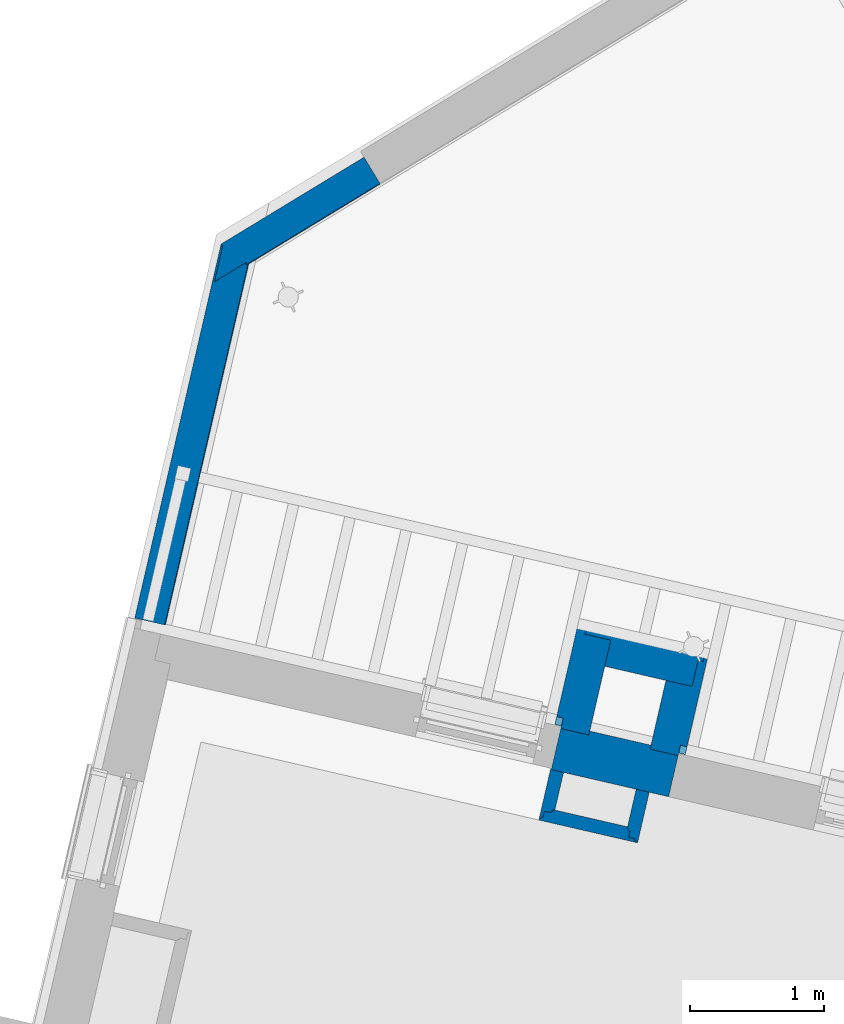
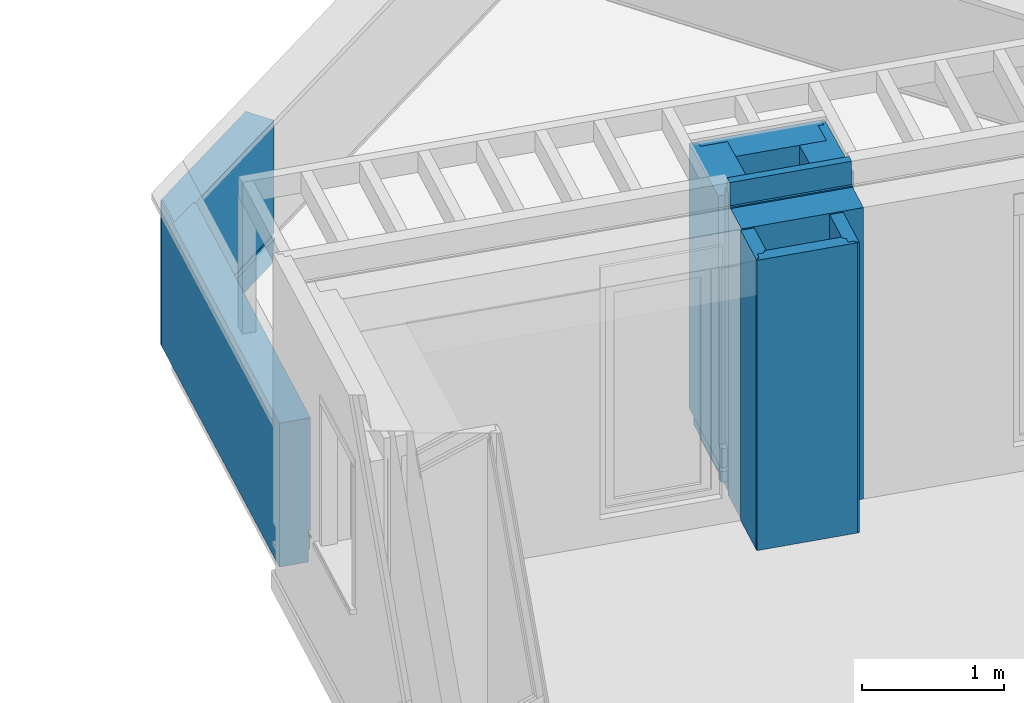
# One storey, part 34 of 62: 9 walls.
"""IFC2X3 building model written with IfcOpenShell, lengths in metres."""

from ifc_helpers import new_model, entity, si_unit, converted_unit, derived_unit, money_unit, direction, frame, origin_with_axes, place, context, subcontext, project, spatial, faceted_brep, material, material_list, type_object, element, save


model = new_model("IFC2X3")

# Units and contexts
model_context = context("Model", 3, precision=1e-05, world=origin_with_axes(), true_north=direction((0.0, 1.0)))
body_context = subcontext(model_context, "Body", "Model", "MODEL_VIEW")
ifc_project = project(units=[si_unit("LENGTHUNIT", "METRE"), si_unit("AREAUNIT", "SQUARE_METRE"), si_unit("VOLUMEUNIT", "CUBIC_METRE"), converted_unit("PLANEANGLEUNIT", "DEGREE", entity("IfcPlaneAngleMeasure", 0.0174532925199), si_unit("PLANEANGLEUNIT", "RADIAN"), dimensions=[0, 0, 0, 0, 0, 0, 0]), si_unit("SOLIDANGLEUNIT", "STERADIAN"), money_unit("EUR"), converted_unit("TIMEUNIT", "Year", entity("IfcTimeMeasure", 31556926.0), si_unit("TIMEUNIT", "SECOND"), dimensions=[0, 0, 1, 0, 0, 0, 0]), si_unit("MASSUNIT", "GRAM", prefix="KILO"), si_unit("THERMODYNAMICTEMPERATUREUNIT", "DEGREE_CELSIUS"), si_unit("LUMINOUSINTENSITYUNIT", "LUMEN"), si_unit("ENERGYUNIT", "JOULE", prefix="MEGA"), derived_unit("THERMALCONDUCTANCEUNIT", [(si_unit("POWERUNIT", "WATT"), 1), (si_unit("LENGTHUNIT", "METRE"), -1), (si_unit("THERMODYNAMICTEMPERATUREUNIT", "KELVIN"), -1)]), derived_unit("SPECIFICHEATCAPACITYUNIT", [(si_unit("ENERGYUNIT", "JOULE"), 1), (si_unit("MASSUNIT", "GRAM", prefix="KILO"), -1), (si_unit("THERMODYNAMICTEMPERATUREUNIT", "KELVIN"), -1)]), derived_unit("MASSDENSITYUNIT", [(si_unit("MASSUNIT", "GRAM", prefix="KILO"), 1), (si_unit("VOLUMEUNIT", "CUBIC_METRE"), -1)])], contexts=[model_context])

# Site, building, storey
site_placement = place(None, origin_with_axes())
site = spatial("IfcSite", under=ifc_project, at=site_placement, Name="Site", CompositionType="ELEMENT")
building_placement = place(site_placement, origin_with_axes())
building = spatial("IfcBuilding", under=site, at=building_placement, Name="Bâtiment", CompositionType="ELEMENT")
storey_placement = place(building_placement, frame((0.0, 0.0, 8.16), z_axis=(0.0, 0.0, 1.0), x_axis=(1.0, 0.0, 0.0)))
storey = spatial("IfcBuildingStorey", under=building, at=storey_placement, Name="R+3", CompositionType="ELEMENT", Elevation=8.16)

# Walls
ifc_material_1 = material(Name="Finition int - Plaque de plâtre")
ifc_material_2 = material(Name="Isolation - Polystyrène extrudé")
ifc_material_3 = material(Name="Bloc ELITHERM")
ifc_material_4 = material(Name="Mortier")
ifc_material_5 = material(Name="Béton cellulaire")
ifc_material_6 = material(Name="Finition ext - Crépis")
ifc_material_list_1 = material_list([ifc_material_1, ifc_material_2, ifc_material_3, ifc_material_4, ifc_material_5, ifc_material_6])
wall_type_1 = type_object("IfcWallType", Name="Mur ALKERN + planelle 21 345 x 2720", PredefinedType="USERDEFINED")
wall_1_placement = place(storey_placement, frame((-3.42713217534, 13.8646562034, 0.0), z_axis=(0.0, 0.0, 1.0), x_axis=(-0.974387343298, 0.224876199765, 0.0)))
element("IfcWall", 1, at=wall_1_placement, inside=storey, type_object=wall_type_1, material=ifc_material_list_1, Name="Mue bloc ALKERN isolé", ObjectType="SOLIDWALL", context=body_context, shape_type="Brep", body=[
    faceted_brep([(0.0, 0.35999998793, 2.51), (0.899323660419, 0.35999998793, 2.51), (0.899323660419, 0.35999998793, 0.0), (0.0, 0.35999998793, 0.0), (0.0, 0.350000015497, 2.51), (0.899323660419, 0.350000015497, 2.51), (0.899323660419, 0.350000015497, 0.0), (0.0, 0.350000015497, 0.0)], [[[0, 1, 2, 3]], [[4, 5, 1, 0]], [[2, 1, 5, 6]], [[3, 2, 6, 7]], [[4, 0, 3, 7]], [[7, 6, 5, 4]]]),
    faceted_brep([(0.0, 0.350000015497, 2.51), (0.899323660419, 0.350000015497, 2.51), (0.899323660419, 0.350000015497, 0.0), (0.0, 0.350000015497, 0.0), (0.0, 0.230000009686, 2.51), (0.899323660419, 0.230000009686, 2.51), (0.899323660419, 0.230000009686, 0.0), (0.0, 0.230000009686, 0.0)], [[[0, 1, 2, 3]], [[4, 5, 1, 0]], [[2, 1, 5, 6]], [[3, 2, 6, 7]], [[4, 0, 3, 7]], [[7, 6, 5, 4]]]),
    faceted_brep([(0.0, 0.03, 2.50999999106), (0.899323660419, 0.03, 2.50999999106), (0.899323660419, 0.0979999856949, 2.50999999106), (0.0, 0.0979999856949, 2.50999999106), (0.0, 0.03, 0.0), (0.899323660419, 0.03, 0.0), (0.899323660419, 0.229999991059, 0.0), (0.899323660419, 0.229999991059, 2.50999999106), (0.0, 0.229999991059, 2.50999999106), (0.0, 0.229999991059, 0.0)], [[[0, 1, 2, 3]], [[4, 5, 1, 0]], [[2, 1, 5, 6, 7]], [[3, 2, 7, 8]], [[4, 0, 3, 8, 9]], [[9, 6, 5, 4]], [[8, 7, 6, 9]]]),
    faceted_brep([(0.899323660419, 0.098, 2.52), (0.899323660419, 0.098, 2.51), (0.0, 0.098, 2.51), (0.0, 0.098, 2.52), (0.899323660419, 0.03, 2.52), (0.899323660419, 0.03, 2.51), (0.0, 0.03, 2.51), (0.0, 0.03, 2.52)], [[[0, 1, 2, 3]], [[0, 4, 5, 1]], [[1, 5, 6, 2]], [[3, 2, 6, 7]], [[4, 0, 3, 7]], [[5, 4, 7, 6]]]),
    faceted_brep([(0.899323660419, 0.0779999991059, 2.51999999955), (0.899323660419, 0.03, 2.51999999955), (0.0, 0.03, 2.51999999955), (0.0, 0.0779999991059, 2.51999999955), (0.899323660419, 0.0779999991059, 2.72), (0.899323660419, 0.03, 2.72), (0.0, 0.03, 2.72), (0.0, 0.0779999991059, 2.72)], [[[0, 1, 2, 3]], [[0, 4, 5, 1]], [[1, 5, 6, 2]], [[3, 2, 6, 7]], [[4, 0, 3, 7]], [[5, 4, 7, 6]]]),
    faceted_brep([(0.884323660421, 0.015, 0.1), (0.899323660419, 0.015, 0.1), (0.899323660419, 0.015, 2.72), (0.0, 0.015, 2.72), (0.0, 0.015, 0.1), (0.0150000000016, 0.015, 0.1), (0.0150000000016, 0.015, 0.0), (0.884323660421, 0.015, 0.0), (0.88432366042, 0.0300000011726, 0.1), (0.899323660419, 0.0300000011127, 0.1), (0.899323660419, 0.0299999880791, 2.72), (0.0, 0.0299999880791, 2.72), (0.0, 0.0300000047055, 0.1), (0.0150000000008, 0.0300000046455, 0.1), (0.0150000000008, 0.0300000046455, 0.0), (0.88432366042, 0.0300000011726, 0.0)], [[[0, 1, 2, 3, 4, 5, 6, 7]], [[1, 0, 8, 9]], [[1, 9, 10, 2]], [[3, 2, 10, 11]], [[12, 4, 3, 11]], [[5, 4, 12, 13]], [[6, 5, 13, 14]], [[15, 7, 6, 14]], [[0, 7, 15, 8]], [[8, 15, 14, 13, 12, 11, 10, 9]]]),
])
ifc_material_7 = material(Name="Isolation - Laine de roche")
ifc_material_list_2 = material_list([ifc_material_1, ifc_material_1, ifc_material_7, ifc_material_1, ifc_material_1])
wall_type_2 = type_object("IfcWallType", Name="3 - Cloison Gaine Technique 98mm 100", PredefinedType="USERDEFINED")
wall_2_placement = place(storey_placement, frame((-3.74052329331, 13.1693209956, 0.0), z_axis=(0.0, 0.0, 1.0), x_axis=(-0.974387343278, 0.224876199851, 0.0)))
element("IfcWall", 2, at=wall_2_placement, inside=storey, type_object=wall_type_2, material=ifc_material_list_2, Name="Cloison 98 isolée", ObjectType="PARTITIONING", context=body_context, shape_type="Brep", body=[
    faceted_brep([(0.756554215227, -0.013, 2.5), (0.756554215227, 0.0, 2.5), (0.013, 0.0, 2.5), (0.013, -0.013, 2.5), (0.756554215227, -0.013, 0.0), (0.756554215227, 0.0, 0.0), (0.013, 0.0, 0.0), (0.013, -0.013, 0.0)], [[[0, 1, 2, 3]], [[1, 0, 4, 5]], [[1, 5, 6, 2]], [[7, 3, 2, 6]], [[4, 0, 3, 7]], [[5, 4, 7, 6]]]),
    faceted_brep([(0.743554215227, -0.026, 2.5), (0.743554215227, -0.013, 2.5), (0.026, -0.013, 2.5), (0.026, -0.026, 2.5), (0.743554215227, -0.026, 0.0), (0.743554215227, -0.013, 0.0), (0.026, -0.013, 0.0), (0.026, -0.026, 0.0)], [[[0, 1, 2, 3]], [[1, 0, 4, 5]], [[1, 5, 6, 2]], [[7, 3, 2, 6]], [[4, 0, 3, 7]], [[5, 4, 7, 6]]]),
    faceted_brep([(0.730554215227, -0.074, 2.5), (0.730554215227, -0.026, 2.5), (0.074, -0.026, 2.5), (0.074, -0.074, 2.5), (0.730554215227, -0.074, 0.0), (0.730554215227, -0.026, 0.0), (0.074, -0.026, 0.0), (0.074, -0.074, 0.0)], [[[0, 1, 2, 3]], [[1, 0, 4, 5]], [[1, 5, 6, 2]], [[7, 3, 2, 6]], [[4, 0, 3, 7]], [[5, 4, 7, 6]]]),
    faceted_brep([(0.682554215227, -0.087, 2.5), (0.682554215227, -0.074, 2.5), (0.087, -0.074, 2.5), (0.087, -0.087, 2.5), (0.682554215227, -0.087, 0.0), (0.682554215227, -0.074, 0.0), (0.087, -0.074, 0.0), (0.087, -0.087, 0.0)], [[[0, 1, 2, 3]], [[1, 0, 4, 5]], [[1, 5, 6, 2]], [[7, 3, 2, 6]], [[4, 0, 3, 7]], [[5, 4, 7, 6]]]),
    faceted_brep([(0.669554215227, -0.1, 2.5), (0.669554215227, -0.087, 2.5), (0.1, -0.087, 2.5), (0.1, -0.1, 2.5), (0.669554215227, -0.1, 0.0), (0.669554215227, -0.087, 0.0), (0.1, -0.087, 0.0), (0.1, -0.1, 0.0)], [[[0, 1, 2, 3]], [[1, 0, 4, 5]], [[1, 5, 6, 2]], [[7, 3, 2, 6]], [[4, 0, 3, 7]], [[5, 4, 7, 6]]]),
])
wall_3_placement = place(storey_placement, frame((-4.47770014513, 13.3394520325, 0.0), z_axis=(0.0, 0.0, 1.0), x_axis=(0.224876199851, 0.974387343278, 0.0)))
element("IfcWall", 3, at=wall_3_placement, inside=storey, type_object=wall_type_2, material=ifc_material_list_2, Name="Cloison 98 isolée", ObjectType="PARTITIONING", context=body_context, shape_type="Brep", body=[
    faceted_brep([(0.013, -0.013, 2.5), (0.387999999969, -0.013, 2.5), (0.387999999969, 0.0, 2.5), (0.013, 0.0, 2.5), (0.013, -0.013, 0.0), (0.387999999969, -0.013, 0.0), (0.387999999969, 0.0, 0.0), (0.013, 0.0, 0.0)], [[[0, 1, 2, 3]], [[4, 5, 1, 0]], [[2, 1, 5, 6]], [[3, 2, 6, 7]], [[4, 0, 3, 7]], [[7, 6, 5, 4]]]),
    faceted_brep([(0.026, -0.026, 2.5), (0.387999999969, -0.026, 2.5), (0.387999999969, -0.013, 2.5), (0.026, -0.013, 2.5), (0.026, -0.026, 0.0), (0.387999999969, -0.026, 0.0), (0.387999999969, -0.013, 0.0), (0.026, -0.013, 0.0)], [[[0, 1, 2, 3]], [[4, 5, 1, 0]], [[2, 1, 5, 6]], [[3, 2, 6, 7]], [[4, 0, 3, 7]], [[7, 6, 5, 4]]]),
    faceted_brep([(0.074, -0.074, 2.5), (0.387999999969, -0.074, 2.5), (0.387999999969, -0.026, 2.5), (0.074, -0.026, 2.5), (0.074, -0.074, 0.0), (0.387999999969, -0.074, 0.0), (0.387999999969, -0.026, 0.0), (0.074, -0.026, 0.0)], [[[0, 1, 2, 3]], [[4, 5, 1, 0]], [[2, 1, 5, 6]], [[3, 2, 6, 7]], [[4, 0, 3, 7]], [[7, 6, 5, 4]]]),
    faceted_brep([(0.087, -0.087, 2.5), (0.387999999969, -0.087, 2.5), (0.387999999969, -0.074, 2.5), (0.087, -0.074, 2.5), (0.087, -0.087, 0.0), (0.387999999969, -0.087, 0.0), (0.387999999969, -0.074, 0.0), (0.087, -0.074, 0.0)], [[[0, 1, 2, 3]], [[4, 5, 1, 0]], [[2, 1, 5, 6]], [[3, 2, 6, 7]], [[4, 0, 3, 7]], [[7, 6, 5, 4]]]),
    faceted_brep([(0.1, -0.1, 2.5), (0.387999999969, -0.1, 2.5), (0.387999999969, -0.087, 2.5), (0.1, -0.087, 2.5), (0.1, -0.1, 0.0), (0.387999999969, -0.1, 0.0), (0.387999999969, -0.087, 0.0), (0.1, -0.087, 0.0)], [[[0, 1, 2, 3]], [[4, 5, 1, 0]], [[2, 1, 5, 6]], [[3, 2, 6, 7]], [[4, 0, 3, 7]], [[7, 6, 5, 4]]]),
])
wall_4_placement = place(storey_placement, frame((-3.65327131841, 13.5473833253, 0.0), z_axis=(0.0, 0.0, 1.0), x_axis=(-0.224876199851, -0.974387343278, 0.0)))
element("IfcWall", 4, at=wall_4_placement, inside=storey, type_object=wall_type_2, material=ifc_material_list_2, Name="Cloison 98 isolée", ObjectType="PARTITIONING", context=body_context, shape_type="Brep", body=[
    faceted_brep([(0.388000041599, -0.013, 2.5), (0.388000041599, 0.0, 2.5), (0.0, 0.0, 2.5), (0.0, -0.013, 2.5), (0.388000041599, -0.013, 0.0), (0.388000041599, 0.0, 0.0), (0.0, 0.0, 0.0), (0.0, -0.013, 0.0)], [[[0, 1, 2, 3]], [[1, 0, 4, 5]], [[1, 5, 6, 2]], [[7, 3, 2, 6]], [[4, 0, 3, 7]], [[5, 4, 7, 6]]]),
    faceted_brep([(0.375000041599, -0.026, 2.5), (0.375000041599, -0.013, 2.5), (0.0, -0.013, 2.5), (0.0, -0.026, 2.5), (0.375000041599, -0.026, 0.0), (0.375000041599, -0.013, 0.0), (0.0, -0.013, 0.0), (0.0, -0.026, 0.0)], [[[0, 1, 2, 3]], [[1, 0, 4, 5]], [[1, 5, 6, 2]], [[7, 3, 2, 6]], [[4, 0, 3, 7]], [[5, 4, 7, 6]]]),
    faceted_brep([(0.362000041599, -0.074, 2.5), (0.362000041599, -0.026, 2.5), (0.0, -0.026, 2.5), (0.0, -0.074, 2.5), (0.362000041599, -0.074, 0.0), (0.362000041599, -0.026, 0.0), (0.0, -0.026, 0.0), (0.0, -0.074, 0.0)], [[[0, 1, 2, 3]], [[1, 0, 4, 5]], [[1, 5, 6, 2]], [[7, 3, 2, 6]], [[4, 0, 3, 7]], [[5, 4, 7, 6]]]),
    faceted_brep([(0.314000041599, -0.087, 2.5), (0.314000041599, -0.074, 2.5), (0.0, -0.074, 2.5), (0.0, -0.087, 2.5), (0.314000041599, -0.087, 0.0), (0.314000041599, -0.074, 0.0), (0.0, -0.074, 0.0), (0.0, -0.087, 0.0)], [[[0, 1, 2, 3]], [[1, 0, 4, 5]], [[1, 5, 6, 2]], [[7, 3, 2, 6]], [[4, 0, 3, 7]], [[5, 4, 7, 6]]]),
    faceted_brep([(0.301000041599, -0.1, 2.5), (0.301000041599, -0.087, 2.5), (0.0, -0.087, 2.5), (0.0, -0.1, 2.5), (0.301000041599, -0.1, 0.0), (0.301000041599, -0.087, 0.0), (0.0, -0.087, 0.0), (0.0, -0.1, 0.0)], [[[0, 1, 2, 3]], [[1, 0, 4, 5]], [[1, 5, 6, 2]], [[7, 3, 2, 6]], [[4, 0, 3, 7]], [[5, 4, 7, 6]]]),
])
ifc_material_8 = material(Name="Métal - Aluminium")
ifc_material_9 = material(Name="Etanchéité - Bitume")
ifc_material_10 = material(Name="Béton")
ifc_material_list_3 = material_list([ifc_material_8, ifc_material_6, ifc_material_9, ifc_material_10, ifc_material_6])
wall_type_3 = type_object("IfcWallType", Name="Acrotère pour plancher 21 isolée TERRASSE ACCESSIBLE 235 x 1240", PredefinedType="USERDEFINED")
wall_5_placement = place(storey_placement, frame((-6.85053797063, 17.64129741, 0.0), z_axis=(0.0, 0.0, 1.0), x_axis=(-0.224876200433, -0.974387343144, 0.0)))
element("IfcWall", 5, at=wall_5_placement, inside=storey, type_object=wall_type_3, material=ifc_material_list_3, Name="Muret béton 20cm", ObjectType="PARAPET", context=body_context, shape_type="Brep", body=[
    faceted_brep([(0.095713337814, 0.214999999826, 0.228976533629), (0.0921624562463, 0.218640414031, 0.228976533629), (0.099262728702, 0.235484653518, 0.222179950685), (0.103038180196, 0.231614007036, 0.222179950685), (0.0910685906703, 0.216045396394, 0.230023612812), (0.092088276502, 0.215, 0.230023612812), (2.86738000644, 0.216045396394, 0.230023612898), (2.86738000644, 0.235484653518, 0.222179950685), (0.099262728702, 0.235484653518, 0.22), (0.100466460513, 0.234250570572, 0.22), (0.100466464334, 0.234250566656, 0.22110136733), (2.86738000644, 0.234250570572, 0.221101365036), (2.86738000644, 0.215, 0.228976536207), (2.86738000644, 0.215, 0.267041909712), (0.092088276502, 0.215, 0.267041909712), (0.0910685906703, 0.216045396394, 0.267041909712), (2.86738000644, 0.216045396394, 0.267041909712), (2.86738000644, 0.234250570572, 0.192882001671), (2.86738000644, 0.235484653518, 0.192882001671), (0.099262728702, 0.235484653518, 0.192882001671), (0.100466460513, 0.234250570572, 0.192882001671)], [[[0, 1, 2, 3]], [[4, 1, 0, 5]], [[1, 4, 6, 7, 2]], [[2, 8, 9, 10, 3]], [[3, 10, 11, 12, 0]], [[5, 0, 12, 13, 14]], [[14, 15, 4, 5]], [[4, 15, 16, 6]], [[11, 17, 18, 7, 6, 16, 13, 12]], [[8, 2, 7, 18, 19]], [[9, 8, 19, 20]], [[10, 9, 20, 17, 11]], [[15, 14, 13, 16]], [[20, 19, 18, 17]]]),
    faceted_brep([(0.0969508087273, 0.23, 0.267041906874), (0.0969508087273, 0.23, 1.24), (2.86738000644, 0.23, 1.24), (2.86738000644, 0.23, 0.267041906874), (0.11158189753, 0.215, 1.24), (0.110562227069, 0.216045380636, 0.267041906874), (0.11158189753, 0.215, 0.267041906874), (2.86738000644, 0.215, 1.24), (2.86738000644, 0.215, 0.267041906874), (2.86738000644, 0.216045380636, 0.267041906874)], [[[0, 1, 2, 3]], [[4, 1, 0, 5, 6]], [[1, 4, 7, 2]], [[8, 9, 3, 2, 7]], [[5, 0, 3, 9]], [[6, 5, 9, 8]], [[4, 6, 8, 7]]]),
    faceted_brep([(2.86738000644, 0.225, 0.11), (0.0948431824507, 0.225, 0.11), (0.0948431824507, 0.225, 0.22), (2.86738000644, 0.225, 0.22), (0.104597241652, 0.215000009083, 0.11), (2.86738000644, 0.214999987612, 0.11), (0.104597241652, 0.215, 0.22), (2.86738000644, 0.215, 0.22)], [[[0, 1, 2, 3]], [[4, 1, 0, 5]], [[1, 4, 6, 2]], [[3, 2, 6, 7]], [[5, 0, 3, 7]], [[4, 5, 7, 6]]]),
    faceted_brep([(0.0906279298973, 0.215, 0.228976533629), (0.0906279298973, 0.215, 1.24), (2.86738000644, 0.215, 1.24), (2.86738000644, 0.215, 0.228976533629), (0.285709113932, 0.015, 0.1), (0.285709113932, 0.015, 1.24), (0.0906279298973, 0.215, 0.22), (0.0906279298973, 0.215, 0.1), (2.86738000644, 0.015, 1.24), (2.86738000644, 0.215, 0.1), (2.86738000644, 0.215, 0.22), (2.86738000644, 0.015, 0.0), (2.86738000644, 0.215, 0.0), (0.285709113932, 0.015, 0.0), (0.0906279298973, 0.215, 0.0)], [[[0, 1, 2, 3]], [[4, 5, 1, 0, 6, 7]], [[2, 1, 5, 8]], [[9, 10, 3, 2, 8, 11, 12]], [[10, 6, 0, 3]], [[8, 5, 4, 13, 11]], [[7, 6, 10, 9]], [[13, 4, 7, 14]], [[11, 13, 14, 12]], [[12, 14, 7, 9]]]),
    faceted_brep([(0.00632287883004, 0.015, 1.24), (2.86738000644, 0.015, 1.24), (2.86738000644, 0.015, 0.0), (0.00632287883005, 0.015, 0.0), (0.0209539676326, 0.0, 1.24), (2.86738000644, 0.0, 1.24), (2.86738000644, 0.0, 0.0), (0.0209539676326, 0.0, 0.0)], [[[0, 1, 2, 3]], [[1, 0, 4, 5]], [[1, 5, 6, 2]], [[6, 7, 3, 2]], [[7, 4, 0, 3]], [[5, 4, 7, 6]]]),
])
ifc_material_list_4 = material_list([ifc_material_6, ifc_material_10, ifc_material_9, ifc_material_6, ifc_material_8])
wall_6_placement = place(storey_placement, frame((-6.85053797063, 17.64129741, 0.0), z_axis=(0.0, 0.0, 1.0), x_axis=(0.854539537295, 0.519386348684, 0.0)))
element("IfcWall", 6, at=wall_6_placement, inside=storey, type_object=wall_type_3, material=ifc_material_list_4, Name="Muret béton 20cm", ObjectType="PARAPET", context=body_context, shape_type="Brep", body=[
    faceted_brep([(1.24933346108, 0.0, 0.0), (0.0, 0.0, 0.0), (0.0, 0.0, 1.24), (1.24933346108, 0.0, 1.24), (1.24933346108, -0.015, 0.0), (-0.0146310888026, -0.015, 0.0), (-0.0146310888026, -0.015, 1.24), (1.24933346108, -0.015, 1.24)], [[[0, 1, 2, 3]], [[4, 5, 1, 0]], [[5, 6, 2, 1]], [[3, 2, 6, 7]], [[0, 3, 7, 4]], [[7, 6, 5, 4]]]),
    faceted_brep([(0.0906279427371, -0.215, 0.1), (1.24933346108, -0.215, 0.1), (1.24933346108, -0.215, 0.22), (-0.188758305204, -0.215, 0.22), (-0.188758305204, -0.215, 0.1), (1.24933346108, -0.214607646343, 0.1), (0.0910106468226, -0.214607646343, 0.1), (1.24933346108, -0.214607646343, 0.0), (1.24933346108, -0.015, 0.0), (1.24933346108, -0.015, 1.24), (1.24933346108, -0.215, 1.24), (1.24933346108, -0.215, 0.228976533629), (-0.188758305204, -0.215, 0.228976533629), (-0.188758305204, -0.215, 0.0), (-0.188758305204, -0.215, 1.24), (0.00632287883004, -0.015, 1.24), (0.00632287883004, -0.015, 0.0), (0.0906279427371, -0.215, 0.0), (0.0910106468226, -0.214607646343, 0.0)], [[[0, 1, 2, 3, 4]], [[5, 1, 0, 6]], [[5, 7, 8, 9, 10, 11, 2, 1]], [[11, 12, 3, 2]], [[13, 4, 3, 12, 14, 15, 16]], [[17, 0, 4, 13]], [[17, 18, 6, 0]], [[7, 5, 6, 18]], [[18, 17, 13, 16, 8, 7]], [[15, 9, 8, 16]], [[9, 15, 14, 10]], [[10, 14, 12, 11]]]),
    faceted_brep([(0.0808738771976, -0.225000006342, 0.11), (1.24933346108, -0.225, 0.11), (1.24933346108, -0.225, 0.22), (0.0808738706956, -0.225, 0.22), (1.24933346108, -0.215, 0.11), (0.0906279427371, -0.215, 0.11), (1.24933346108, -0.215, 0.22), (0.0906279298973, -0.215, 0.22)], [[[0, 1, 2, 3]], [[4, 1, 0, 5]], [[1, 4, 6, 2]], [[6, 7, 3, 2]], [[5, 0, 3, 7]], [[4, 5, 7, 6]]]),
    faceted_brep([(0.0906279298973, -0.215, 0.267041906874), (0.0906279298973, -0.215, 1.24), (1.24933346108, -0.215, 1.24), (1.24933346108, -0.215, 0.267041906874), (0.0759968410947, -0.23, 1.24), (0.0896082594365, -0.216045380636, 0.267041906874), (0.0759968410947, -0.23, 0.267041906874), (1.24933346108, -0.23, 1.24), (1.24933346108, -0.23, 0.267041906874), (1.24933346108, -0.216045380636, 0.267041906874)], [[[0, 1, 2, 3]], [[4, 1, 0, 5, 6]], [[1, 4, 7, 2]], [[3, 2, 7, 8, 9]], [[5, 0, 3, 9]], [[6, 5, 9, 8]], [[4, 6, 8, 7]]]),
    faceted_brep([(0.0906279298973, -0.215, 0.228976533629), (0.0906279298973, -0.215, 0.267041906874), (1.24933346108, -0.215, 0.267041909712), (1.24933346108, -0.215, 0.228976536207), (0.0896082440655, -0.216045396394, 0.267041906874), (0.0870770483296, -0.218640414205, 0.228976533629), (0.0896082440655, -0.216045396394, 0.230023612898), (1.24933346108, -0.216045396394, 0.267041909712), (1.24933346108, -0.216045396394, 0.230023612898), (1.24933346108, -0.235484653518, 0.222179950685), (1.24933346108, -0.235484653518, 0.192882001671), (1.24933346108, -0.234250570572, 0.192882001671), (1.24933346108, -0.234250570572, 0.221101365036), (0.0987425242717, -0.234250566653, 0.221101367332), (0.0975387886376, -0.235484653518, 0.221101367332), (0.0938556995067, -0.235484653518, 0.222179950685), (0.0975387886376, -0.235484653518, 0.22), (0.0975387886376, -0.235484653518, 0.192882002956), (0.0987425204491, -0.234250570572, 0.192882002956), (0.0987425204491, -0.234250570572, 0.22)], [[[0, 1, 2, 3]], [[4, 1, 0, 5, 6]], [[1, 4, 7, 2]], [[7, 8, 9, 10, 11, 12, 3, 2]], [[13, 0, 3, 12]], [[5, 0, 13, 14, 15]], [[6, 5, 15, 9, 8]], [[4, 6, 8, 7]], [[14, 16, 17, 10, 9, 15]], [[17, 18, 11, 10]], [[19, 13, 12, 11, 18]], [[13, 19, 16, 14]], [[16, 19, 18, 17]]]),
])
ifc_material_11 = material(Name="Bois - Bardage")
ifc_material_12 = material(Name="Bois - Lattage")
ifc_material_13 = material(Name="Parpaing 20cm")
ifc_material_list_5 = material_list([ifc_material_11, ifc_material_12, ifc_material_13])
wall_type_4 = type_object("IfcWallType", Name="1 - Mur PARPAING 20  + bardage 265", PredefinedType="USERDEFINED")
wall_7_placement = place(storey_placement, frame((-4.36226057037, 14.0342890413, 0.0), z_axis=(0.0, 0.0, 1.0), x_axis=(0.224876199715, 0.97438734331, 0.0)))
element("IfcWall", 7, at=wall_7_placement, inside=storey, type_object=wall_type_4, material=ifc_material_list_5, Name="M_Ext-018", ObjectType="PARTITIONING", context=body_context, shape_type="Brep", body=[
    faceted_brep([(0.0250000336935, -0.025, 0.109999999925), (0.0769668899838, -0.025, 0.109999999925), (0.0769668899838, -0.025, 0.200000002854), (0.0250000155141, -0.025, 0.200000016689), (0.0770554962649, 0.0, 0.109999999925), (0.0250000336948, 0.0, 0.109999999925), (0.0770554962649, 0.0, 0.200000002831), (0.0250000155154, 0.0, 0.200000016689)], [[[0, 1, 2, 3]], [[4, 1, 0, 5]], [[1, 4, 6, 2]], [[2, 6, 7, 3]], [[5, 0, 3, 7]], [[4, 5, 7, 6]]]),
    faceted_brep([(0.792000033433, 0.0, 2.5185), (0.792000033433, -0.025, 2.5185), (0.792000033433, -0.025, 0.24), (0.792000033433, 0.0, 0.24), (0.76201003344, -0.025, 2.5193997), (0.762010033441, 0.0, 2.5193997), (0.0800000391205, 0.0, 2.53985999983), (0.0800000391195, -0.025, 2.53985999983), (0.0800000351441, -0.025, 0.4), (0.0550000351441, -0.025, 0.4), (0.0200000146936, -0.025, 0.399999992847), (0.0200000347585, -0.025, 0.235000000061), (0.0769668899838, -0.025, 0.235000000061), (0.0769668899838, -0.025, 0.24), (0.0770554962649, 0.0, 0.24), (0.0770554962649, 0.0, 0.235000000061), (0.0200000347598, 0.0, 0.235000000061), (0.0200000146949, 0.0, 0.399999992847), (0.0550000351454, 0.0, 0.4), (0.0800000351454, 0.0, 0.4)], [[[0, 1, 2, 3]], [[4, 1, 0, 5, 6, 7]], [[1, 4, 7, 8, 9, 10, 11, 12, 13, 2]], [[13, 14, 3, 2]], [[5, 0, 3, 14, 15, 16, 17, 18, 19, 6]], [[6, 19, 8, 7]], [[8, 19, 18, 9]], [[18, 17, 10, 9]], [[17, 16, 11, 10]], [[11, 16, 15, 12]], [[15, 14, 13, 12]]]),
    faceted_brep([(0.767000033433, -0.025, 2.51925), (0.767000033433, -0.065, 2.51925), (0.767000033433, -0.065, 0.109999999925), (0.767000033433, -0.025, 0.109999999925), (0.762010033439, -0.065, 2.5193997), (0.76201003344, -0.025, 2.5193997), (0.0800000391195, -0.025, 2.53985999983), (0.0800000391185, -0.0500000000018, 2.53985999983), (0.0800000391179, -0.065, 2.53985999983), (0.080000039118, -0.065, 2.6), (0.0, -0.065, 2.6), (0.0, -0.065, 0.0), (0.0150000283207, -0.065, 0.0), (0.0150000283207, -0.065, 0.11), (0.727000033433, -0.065, 0.11), (0.0150000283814, -0.0499999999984, 0.11), (0.0250000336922, -0.0499999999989, 0.109999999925), (0.0250000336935, -0.025, 0.109999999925), (0.0250000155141, -0.025, 0.200000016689), (0.0876889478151, -0.025, 0.2), (0.0876889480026, -0.025, 0.235000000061), (0.0200000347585, -0.025, 0.235000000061), (0.0200000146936, -0.025, 0.399999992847), (0.0550000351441, -0.025, 0.4), (0.0800000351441, -0.025, 0.4), (0.0800000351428, -0.0500000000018, 0.4), (0.0800000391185, -0.0500000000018, 2.6), (0.0, -0.0499999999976, 2.6), (0.0, -0.0499999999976, 0.0), (0.0150000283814, -0.0499999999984, 0.0), (0.0550000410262, -0.0500000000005, 0.399999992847), (0.0200000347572, -0.0499999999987, 0.4), (0.0200000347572, -0.0499999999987, 0.235000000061), (0.0876889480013, -0.0500000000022, 0.235000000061), (0.0876889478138, -0.0500000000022, 0.2), (0.0250000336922, -0.0499999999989, 0.2)], [[[0, 1, 2, 3]], [[4, 1, 0, 5, 6, 7, 8]], [[1, 4, 8, 9, 10, 11, 12, 13, 14, 2]], [[13, 15, 16, 17, 3, 2, 14]], [[5, 0, 3, 17, 18, 19, 20, 21, 22, 23, 24, 6]], [[6, 24, 25, 7]], [[9, 8, 7, 26]], [[26, 27, 10, 9]], [[28, 11, 10, 27]], [[11, 28, 29, 12]], [[12, 29, 15, 13]], [[29, 28, 27, 26, 7, 25, 30, 31, 32, 33, 34, 35, 16, 15]], [[35, 18, 17, 16]], [[18, 35, 34, 19]], [[19, 34, 33, 20]], [[20, 33, 32, 21]], [[21, 32, 31, 22]], [[22, 31, 30, 23]], [[23, 30, 25, 24]]]),
    faceted_brep([(0.727000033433, -0.065, 2.52045), (0.727000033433, -0.265, 2.52045), (0.727000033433, -0.265, 0.0), (0.727000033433, -0.065, 0.0), (0.0800000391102, -0.265, 2.53985999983), (0.080000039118, -0.065, 2.53985999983), (0.0800000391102, -0.265, 2.6), (0.0, -0.265, 2.6), (0.0, -0.265, 0.0), (0.0, -0.065, 0.0), (0.0, -0.065, 2.6), (0.080000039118, -0.065, 2.6)], [[[0, 1, 2, 3]], [[4, 1, 0, 5]], [[4, 6, 7, 8, 2, 1]], [[3, 2, 8, 9]], [[5, 0, 3, 9, 10, 11]], [[11, 6, 4, 5]], [[6, 11, 10, 7]], [[8, 7, 10, 9]]]),
])
wall_8_placement = place(storey_placement, frame((-4.18415861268, 14.8060038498, 0.0), z_axis=(0.0, 0.0, 1.0), x_axis=(0.97438734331, -0.224876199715, 0.0)))
element("IfcWall", 8, at=wall_8_placement, inside=storey, type_object=wall_type_4, material=ifc_material_list_5, Name="M_Ext-019", ObjectType="PARTITIONING", context=body_context, shape_type="Brep", body=[
    faceted_brep([(0.999323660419, -0.025, 0.24), (0.999323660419, 0.0, 0.24), (0.999323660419, 0.0, 2.5185), (0.999323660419, -0.025, 2.51925), (0.025, 0.0, 0.24), (0.025, -0.025, 0.24), (0.025, 0.0, 2.5185), (0.025, -0.025, 2.51925)], [[[0, 1, 2, 3]], [[4, 1, 0, 5]], [[1, 4, 6, 2]], [[2, 6, 7, 3]], [[5, 0, 3, 7]], [[4, 5, 7, 6]]]),
    faceted_brep([(0.974323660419, -0.065, 0.11), (0.974323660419, -0.025, 0.11), (0.974323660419, -0.025, 2.51925), (0.974323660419, -0.065, 2.52045), (0.065, -0.025, 0.11), (0.934323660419, -0.065, 0.11), (0.065, -0.065, 0.11), (0.065, -0.025, 2.51925), (0.065, -0.065, 2.52045)], [[[0, 1, 2, 3]], [[4, 1, 0, 5, 6]], [[1, 4, 7, 2]], [[2, 7, 8, 3]], [[5, 0, 3, 8, 6]], [[4, 6, 8, 7]]]),
    faceted_brep([(0.934323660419, -0.265, 2.52645), (0.934323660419, -0.265, 0.0), (0.934323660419, -0.065, 0.0), (0.934323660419, -0.065, 2.52045), (0.265, -0.265, 2.52645), (0.265, -0.265, 0.0), (0.265, -0.065, 0.0), (0.265, -0.065, 2.52045)], [[[0, 1, 2, 3]], [[1, 0, 4, 5]], [[2, 1, 5, 6]], [[3, 2, 6, 7]], [[0, 3, 7, 4]], [[5, 4, 7, 6]]]),
])
wall_9_placement = place(storey_placement, frame((-3.21043028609, 14.5812797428, 0.0), z_axis=(0.0, 0.0, 1.0), x_axis=(-0.224876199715, -0.97438734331, 0.0)))
element("IfcWall", 9, at=wall_9_placement, inside=storey, type_object=wall_type_4, material=ifc_material_list_5, Name="M_Ext-020", ObjectType="PARTITIONING", context=body_context, shape_type="Brep", body=[
    faceted_brep([(0.767000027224, 0.0, 0.11), (0.718486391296, 0.0, 0.11), (0.718486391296, 0.0, 0.200000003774), (0.767000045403, 0.0, 0.200000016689), (0.718397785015, -0.025, 0.11), (0.767000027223, -0.025, 0.11), (0.718397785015, -0.025, 0.20000000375), (0.767000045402, -0.025, 0.200000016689)], [[[0, 1, 2, 3]], [[4, 1, 0, 5]], [[1, 4, 6, 2]], [[2, 6, 7, 3]], [[5, 0, 3, 7]], [[4, 5, 7, 6]]]),
    faceted_brep([(0.025, -0.025, 2.51925), (0.025, 0.0, 2.51925), (0.025, 0.0, 0.24), (0.025, -0.025, 0.24), (0.02999, 0.0, 2.5193997), (0.029989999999, -0.025, 2.5193997), (0.711999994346, -0.025, 2.53985999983), (0.711999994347, 0.0, 2.53985999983), (0.712000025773, 0.0, 0.4), (0.737000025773, 0.0, 0.4), (0.772000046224, 0.0, 0.399999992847), (0.772000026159, 0.0, 0.235000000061), (0.718486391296, 0.0, 0.235000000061), (0.718486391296, 0.0, 0.24), (0.718397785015, -0.025, 0.24), (0.718397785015, -0.025, 0.235000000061), (0.772000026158, -0.025, 0.235000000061), (0.772000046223, -0.025, 0.399999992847), (0.737000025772, -0.025, 0.4), (0.712000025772, -0.025, 0.4)], [[[0, 1, 2, 3]], [[4, 1, 0, 5, 6, 7]], [[1, 4, 7, 8, 9, 10, 11, 12, 13, 2]], [[13, 14, 3, 2]], [[5, 0, 3, 14, 15, 16, 17, 18, 19, 6]], [[6, 19, 8, 7]], [[8, 19, 18, 9]], [[18, 17, 10, 9]], [[17, 16, 11, 10]], [[11, 16, 15, 12]], [[15, 14, 13, 12]]]),
    faceted_brep([(0.065, -0.065, 2.52045), (0.065, -0.025, 2.52045), (0.065, -0.025, 0.109999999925), (0.065, -0.065, 0.11), (0.711999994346, -0.025, 2.53985999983), (0.711999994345, -0.065, 2.53985999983), (0.711999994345, -0.0499999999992, 2.53985999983), (0.712000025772, -0.025, 0.4), (0.737000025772, -0.025, 0.4), (0.772000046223, -0.025, 0.399999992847), (0.772000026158, -0.025, 0.235000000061), (0.704311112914, -0.025, 0.235000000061), (0.704311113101, -0.025, 0.2), (0.767000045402, -0.025, 0.200000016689), (0.767000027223, -0.025, 0.11), (0.777000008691, -0.0500000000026, 0.11), (0.77700000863, -0.065, 0.11), (0.767000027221, -0.0500000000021, 0.11), (0.77700000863, -0.065, 0.0), (0.79200003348, -0.065, 0.0), (0.79200003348, -0.065, 2.6), (0.711999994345, -0.065, 2.6), (0.711999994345, -0.0499999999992, 2.6), (0.712000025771, -0.0499999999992, 0.4), (0.737000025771, -0.0500000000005, 0.4), (0.772000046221, -0.0500000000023, 0.399999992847), (0.772000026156, -0.0500000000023, 0.235000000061), (0.704311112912, -0.0499999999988, 0.235000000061), (0.7043111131, -0.0499999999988, 0.2), (0.767000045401, -0.0500000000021, 0.200000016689), (0.777000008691, -0.0500000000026, 0.0), (0.79200003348, -0.0500000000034, 2.6), (0.79200003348, -0.0500000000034, 0.0)], [[[0, 1, 2, 3]], [[4, 1, 0, 5, 6]], [[1, 4, 7, 8, 9, 10, 11, 12, 13, 14, 2]], [[15, 16, 3, 2, 14, 17]], [[5, 0, 3, 16, 18, 19, 20, 21]], [[21, 22, 6, 5]], [[4, 6, 23, 7]], [[8, 7, 23, 24]], [[8, 24, 25, 9]], [[9, 25, 26, 10]], [[11, 10, 26, 27]], [[11, 27, 28, 12]], [[12, 28, 29, 13]], [[14, 13, 29, 17]], [[15, 30, 18, 16]], [[6, 22, 31, 32, 30, 15, 17, 29, 28, 27, 26, 25, 24, 23]], [[30, 32, 19, 18]], [[31, 20, 19, 32]], [[22, 21, 20, 31]]]),
    faceted_brep([(0.265, -0.265, 2.52645), (0.265, -0.065, 2.52645), (0.265, -0.065, 0.0), (0.265, -0.265, 0.0), (0.711999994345, -0.065, 2.53985999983), (0.711999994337, -0.265, 2.53985999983), (0.711999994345, -0.065, 2.6), (0.79200003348, -0.065, 2.6), (0.79200003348, -0.065, 0.0), (0.79200003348, -0.265, 0.0), (0.79200003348, -0.265, 2.6), (0.711999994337, -0.265, 2.6)], [[[0, 1, 2, 3]], [[4, 1, 0, 5]], [[4, 6, 7, 8, 2, 1]], [[2, 8, 9, 3]], [[5, 0, 3, 9, 10, 11]], [[11, 6, 4, 5]], [[6, 11, 10, 7]], [[7, 10, 9, 8]]]),
])

save(model, "model.ifc")
